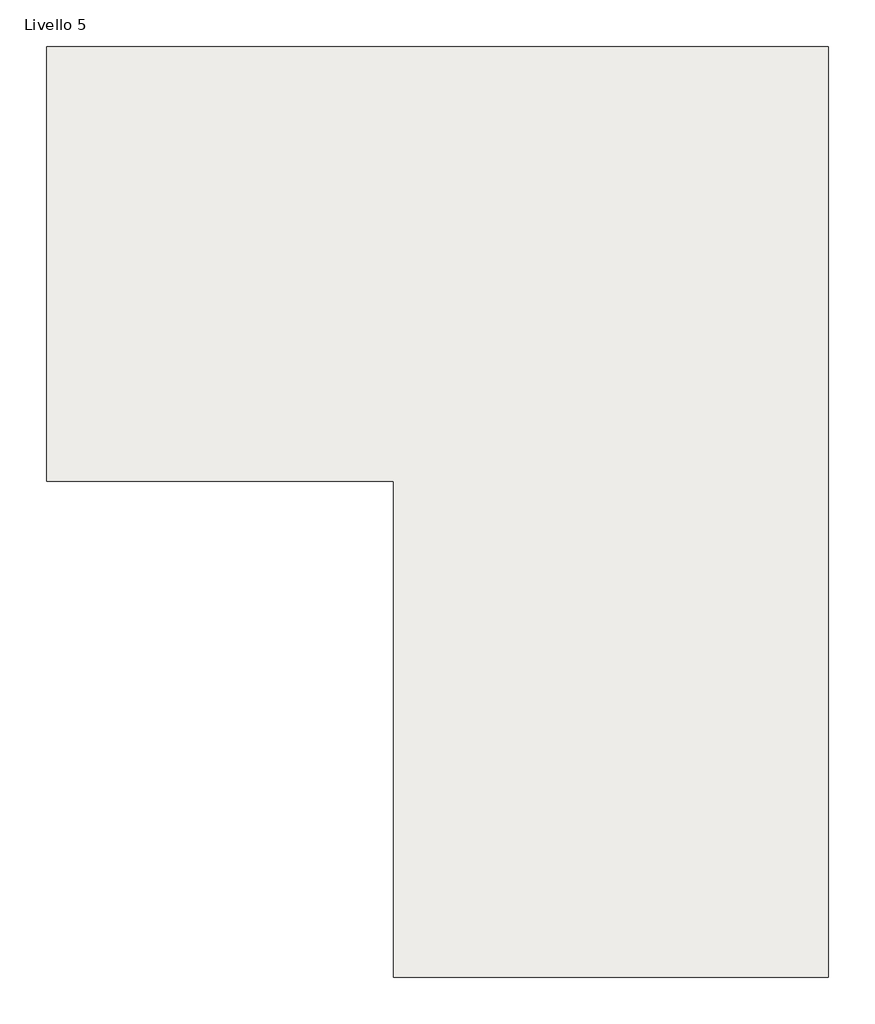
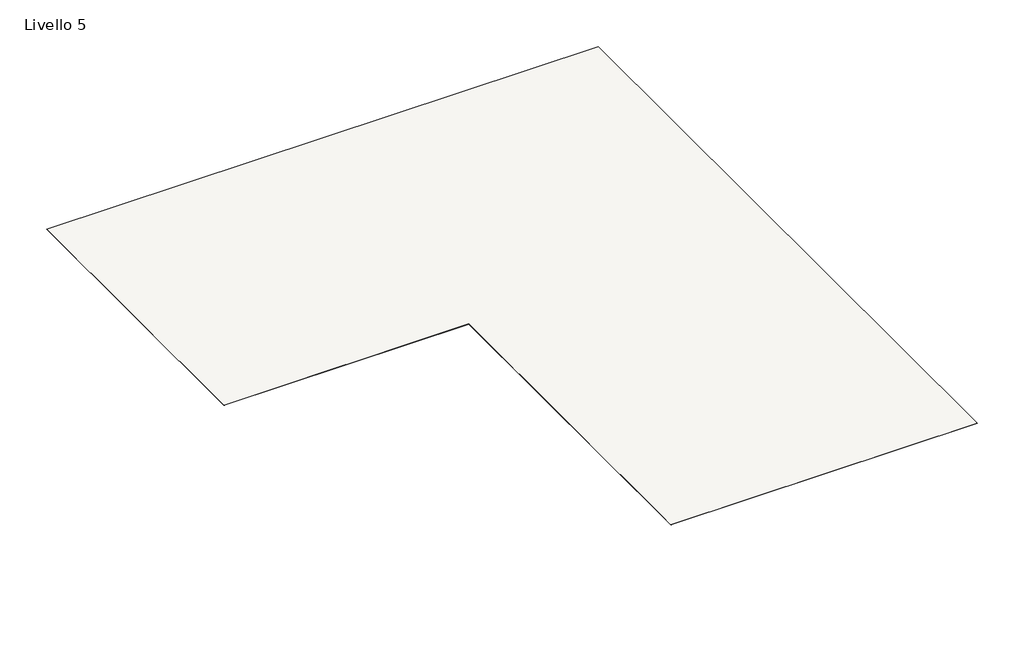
# One storey: 1 slab.
"""IFC4 building model written with IfcOpenShell, lengths in millimetres."""

import ifcopenshell
import ifcopenshell.guid

model = None  # the IFC model being written
_history = None  # IfcOwnerHistory: only IFC2X3 demands one
_inside = {}  # id of a spatial element -> (the spatial element, [elements in it])
_under = {}  # id of a project, library or spatial element -> (it, [spatial elements below it])
_declared = {}  # id of a project -> (the project, [libraries it declares])
_typed = {}  # id of a type object -> (the type object, [elements of that type])
_made_of = {}  # id of a material, layer set ... -> (it, [elements and type objects made of it])


def new_model(schema):
    """Start an empty IFC model of exactly this schema.

    Asked for "IFC4X3", IfcOpenShell would pick the latest addendum, in which some entities
    have other attributes; the version numbers below select the first issue.
    IFC2X3 requires an IfcOwnerHistory on every rooted entity: one is made here for all.
    """
    global model, _history
    if schema == "IFC4X3":
        model = ifcopenshell.file(schema_version=(4, 3, 0, 0))
    else:
        model = ifcopenshell.file(schema=schema)
    _inside.clear()
    _under.clear()
    _declared.clear()
    _typed.clear()
    _made_of.clear()
    _history = None
    if model.schema == "IFC2X3":
        org = make("IfcOrganization", Name="unknown")
        user = make(
            "IfcPersonAndOrganization",
            ThePerson=make("IfcPerson", FamilyName="unknown"),
            TheOrganization=org,
        )
        app = make(
            "IfcApplication",
            ApplicationDeveloper=org,
            Version="unknown",
            ApplicationFullName="unknown",
            ApplicationIdentifier="unknown",
        )
        _history = make(
            "IfcOwnerHistory",
            OwningUser=user,
            OwningApplication=app,
            ChangeAction="ADDED",
            CreationDate=0,
        )
    return model


def make(cls, **values):
    """One entity of the class cls with the attributes given. An attribute that is None is left unset."""
    return model.create_entity(
        cls, **{name: value for name, value in values.items() if value is not None}
    )


def rooted(cls, **values):
    """An entity with a GlobalId (a new one), such as an element, a storey or a relation."""
    return make(cls, GlobalId=ifcopenshell.guid.new(), OwnerHistory=_history, **values)


def si_unit(unit_type, name, prefix=None):
    """IfcSIUnit, for example si_unit("LENGTHUNIT", "METRE", prefix="MILLI")."""
    return make("IfcSIUnit", UnitType=unit_type, Prefix=prefix, Name=name)


def assignment(units):
    """IfcUnitAssignment: the units of a project."""
    return None if units is None else make("IfcUnitAssignment", Units=units)


def point(xyz):
    """IfcCartesianPoint."""
    return None if xyz is None else make("IfcCartesianPoint", Coordinates=xyz)


def direction(xyz):
    """IfcDirection."""
    return None if xyz is None else make("IfcDirection", DirectionRatios=xyz)


def frame(location, z_axis=None, x_axis=None):
    """IfcAxis2Placement3D, a coordinate frame: its origin and axes. An axis left out is left unset."""
    return make(
        "IfcAxis2Placement3D",
        Location=point(location),
        Axis=direction(z_axis),
        RefDirection=direction(x_axis),
    )


def origin():
    """The frame at (0, 0, 0) with its axes left unset."""
    return frame((0.0, 0.0, 0.0))


def place(relative_to, where):
    """IfcLocalPlacement: puts the frame where relative to a parent placement (None: the world)."""
    return make(
        "IfcLocalPlacement", PlacementRelTo=relative_to, RelativePlacement=where
    )


def context(
    kind, dimensions, precision=None, world=None, true_north=None, identifier=None
):
    """IfcGeometricRepresentationContext, for example the 3D "Model" context."""
    return make(
        "IfcGeometricRepresentationContext",
        ContextIdentifier=identifier,
        ContextType=kind,
        CoordinateSpaceDimension=dimensions,
        Precision=precision,
        WorldCoordinateSystem=world,
        TrueNorth=true_north,
    )


def project(units=None, contexts=None):
    """IfcProject with its units and contexts."""
    return rooted(
        "IfcProject",
        Name="project",
        RepresentationContexts=contexts,
        UnitsInContext=assignment(units),
    )


def spatial(cls, under=None, at=None, **own):
    """A site, building, storey or space (cls), placed at a placement, below another one or the project."""
    s = rooted(cls, ObjectPlacement=at, **own)
    if under is not None:
        _under.setdefault(under.id(), (under, []))[1].append(s)
    return s


def polyline(points):
    """IfcPolyline through the points."""
    return make("IfcPolyline", Points=[point(p) for p in points])


def outline(outer, holes=None, kind="AREA"):
    """IfcArbitraryClosedProfileDef: a profile drawn as a closed curve; with holes, ...WithVoids."""
    if holes is None:
        return make("IfcArbitraryClosedProfileDef", ProfileType=kind, OuterCurve=outer)
    return make(
        "IfcArbitraryProfileDefWithVoids",
        ProfileType=kind,
        OuterCurve=outer,
        InnerCurves=holes,
    )


def extrude(swept, where, along, depth):
    """IfcExtrudedAreaSolid: the profile swept, set in the frame where, extruded along a direction by depth."""
    return make(
        "IfcExtrudedAreaSolid",
        SweptArea=swept,
        Position=where,
        ExtrudedDirection=direction(along),
        Depth=depth,
    )


def shape(context_of_items, identifier, shape_type, items):
    """IfcShapeRepresentation: the items that make up one representation, for example the "Body"."""
    return make(
        "IfcShapeRepresentation",
        ContextOfItems=context_of_items,
        RepresentationIdentifier=identifier,
        RepresentationType=shape_type,
        Items=items,
    )


def made_of(thing, what):
    """Note that an element or type object is made of a material, layer set ...; save() writes the relation."""
    if what is not None:
        _made_of.setdefault(what.id(), (what, []))[1].append(thing)
    return thing


def element(
    cls,
    number,
    at=None,
    inside=None,
    cuts=None,
    type_object=None,
    material=None,
    context=None,
    identifier="Body",
    shape_type=None,
    held_by="IfcProductDefinitionShape",
    body=None,
    shapes=None,
    **own,
):
    """One element of the class cls, such as IfcWall. Its Tag is "e" and its number.

    at: its placement. inside: the storey or other place that contains it. cuts: it is an
    opening in that element (IfcRelVoidsElement). A single representation is given by context,
    identifier, shape_type and body (its items); several are given by shapes. held_by: the class
    of the entity that holds the representations. save() writes the other relations.
    """
    e = rooted(cls, Tag="e%d" % number, ObjectPlacement=at, **own)
    if body is not None:
        shapes = [shape(context, identifier, shape_type, body)]
    if shapes is not None:
        e.Representation = make(held_by, Representations=shapes)
    if inside is not None:
        _inside.setdefault(inside.id(), (inside, []))[1].append(e)
    if cuts is not None:
        rooted(
            "IfcRelVoidsElement", RelatingBuildingElement=cuts, RelatedOpeningElement=e
        )
    if type_object is not None:
        _typed.setdefault(type_object.id(), (type_object, []))[1].append(e)
    return made_of(e, material)


def aggregate(whole, parts):
    """IfcRelAggregates: a whole, such as a stair, and the parts it consists of."""
    return rooted("IfcRelAggregates", RelatingObject=whole, RelatedObjects=parts)


def save(model, path):
    """Write the relations noted so far, then the file.

    IfcRelAggregates (storeys below a building ...), IfcRelContainedInSpatialStructure (elements
    in a storey), IfcRelDefinesByType, IfcRelAssociatesMaterial and IfcRelDeclares: one each for
    every whole, place, type object, material and project.
    """
    for whole, parts in _under.values():
        aggregate(whole, parts)
    for where, things in _inside.values():
        rooted(
            "IfcRelContainedInSpatialStructure",
            RelatedElements=things,
            RelatingStructure=where,
        )
    for kind, things in _typed.values():
        rooted("IfcRelDefinesByType", RelatedObjects=things, RelatingType=kind)
    for what, things in _made_of.values():
        rooted("IfcRelAssociatesMaterial", RelatedObjects=things, RelatingMaterial=what)
    for by, libraries in _declared.values():
        rooted("IfcRelDeclares", RelatingContext=by, RelatedDefinitions=libraries)
    model.write(path)


model = new_model("IFC4")

# Units and contexts
model_context = context("Model", 3, world=origin())
ifc_project = project(units=[si_unit("LENGTHUNIT", "METRE", prefix="MILLI")], contexts=[model_context])

# Site, building, storey
site = spatial("IfcSite", under=ifc_project)
building = spatial("IfcBuilding", under=site)
storey = spatial("IfcBuildingStorey", under=building, Name="Livello 5", Elevation=-2480.0)

# Slab
placement = place(None, origin())
element("IfcSlab", 1, ObjectType="RETE METALLICA", at=placement, inside=storey, context=model_context, shape_type="SweptSolid", body=[
    extrude(outline(polyline([(1493.1031791, 249.648913), (-5506.8968209, 249.648913), (-5506.8968209, 9007.648913), (10251.1031791, 9007.648913), (10251.1031791, -9750.351087), (1493.1031791, -9750.351087), (1493.1031791, 249.648913)])), frame((0.0, 0.0, -2480.0), z_axis=(0.0, 0.0, 1.0), x_axis=(1.0, 0.0, 0.0)), (0.0, 0.0, 1.0), 1.0),
])

save(model, "model.ifc")
